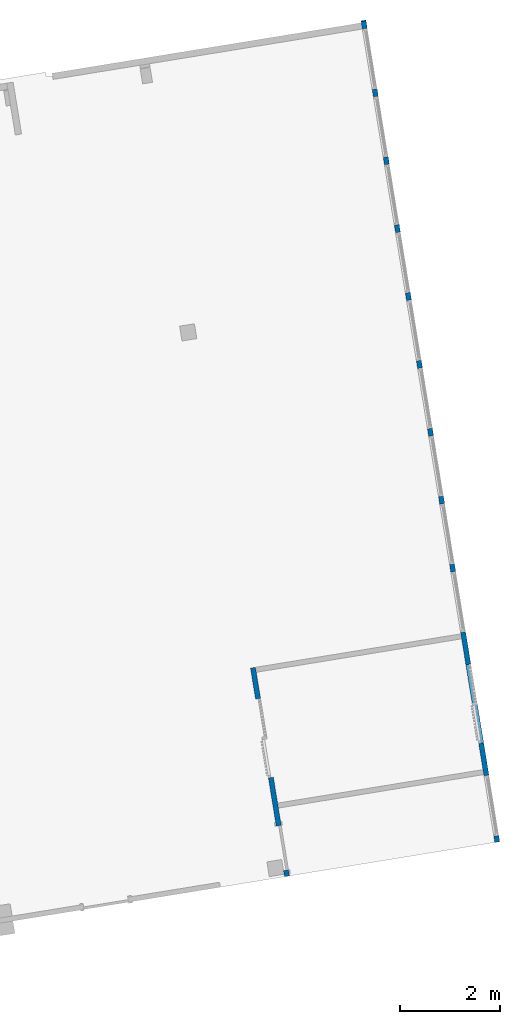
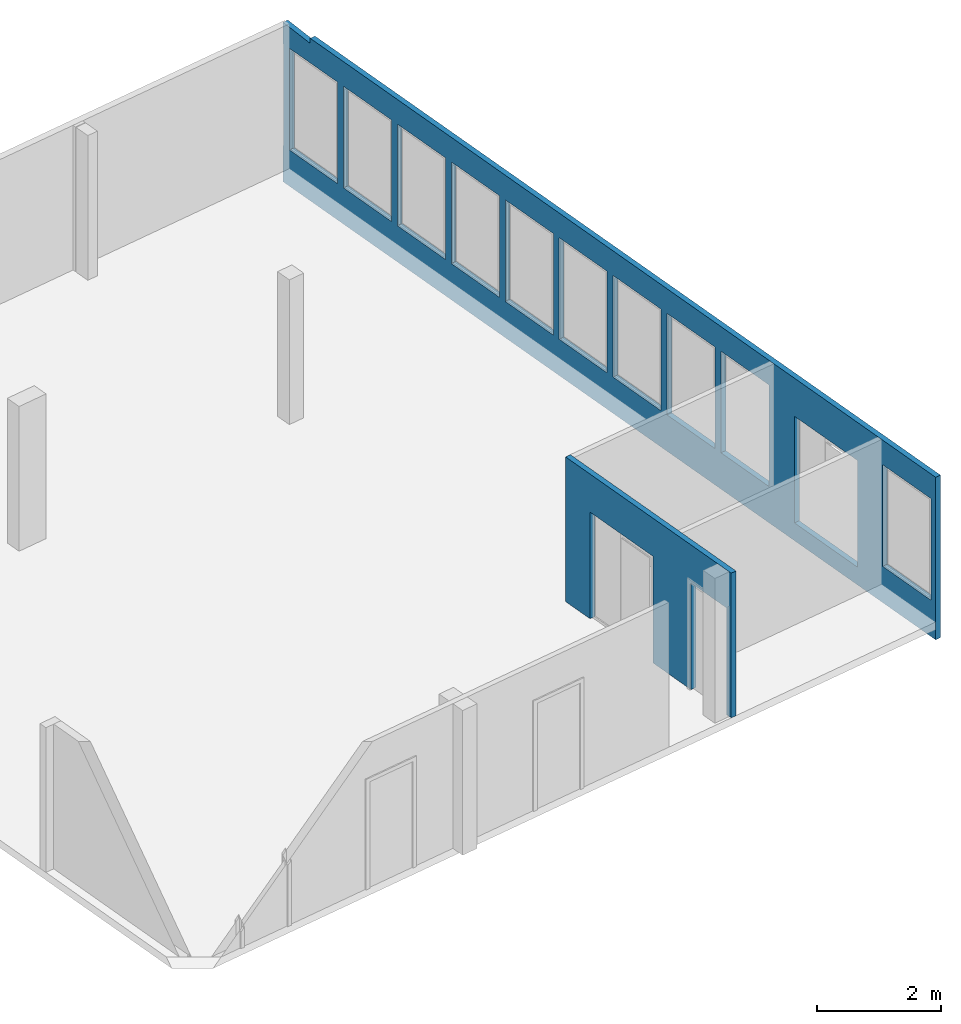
# One storey, part 4 of 5: 2 walls.
"""IFC2X3 building model written with IfcOpenShell, lengths in millimetres."""

from ifc_helpers import new_model, entity, si_unit, converted_unit, derived_unit, direction, frame, origin, origin_with_axes, place, context, subcontext, project, spatial, faceted_brep, material, layer, layer_set, type_object, element, save


model = new_model("IFC2X3")

# Units and contexts
model_context = context("Model", 3, precision=0.01, world=origin(), true_north=direction((6.12323399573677e-17, 1.0)))
plan_context = context("Plan", 3, precision=1e-05, world=origin_with_axes())
body_context = subcontext(model_context, "Body", "Model", "MODEL_VIEW")
ifc_project = project(units=[converted_unit("PLANEANGLEUNIT", "DEGREE", entity("IfcPositiveLengthMeasure", 0.0174532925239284), si_unit("PLANEANGLEUNIT", "RADIAN"), dimensions=[0, 0, 0, 0, 0, 0, 0]), si_unit("AREAUNIT", "SQUARE_METRE"), si_unit("LENGTHUNIT", "METRE", prefix="MILLI"), si_unit("MASSUNIT", "GRAM", prefix="KILO"), si_unit("POWERUNIT", "WATT"), si_unit("PRESSUREUNIT", "PASCAL", prefix="KILO"), si_unit("FORCEUNIT", "NEWTON", prefix="KILO"), si_unit("ELECTRICVOLTAGEUNIT", "VOLT"), si_unit("ELECTRICCURRENTUNIT", "AMPERE"), si_unit("THERMODYNAMICTEMPERATUREUNIT", "DEGREE_CELSIUS"), si_unit("TIMEUNIT", "SECOND"), si_unit("VOLUMEUNIT", "CUBIC_METRE"), derived_unit("LINEARVELOCITYUNIT", [(si_unit("LENGTHUNIT", "METRE"), 1), (si_unit("TIMEUNIT", "SECOND"), -1)]), derived_unit("VOLUMETRICFLOWRATEUNIT", [(si_unit("VOLUMEUNIT", "CUBIC_METRE"), 1), (si_unit("TIMEUNIT", "SECOND"), -1)]), derived_unit("THERMALTRANSMITTANCEUNIT", [(si_unit("POWERUNIT", "WATT"), 1), (si_unit("THERMODYNAMICTEMPERATUREUNIT", "KELVIN"), -1), (si_unit("AREAUNIT", "SQUARE_METRE"), -1)]), derived_unit("SOUNDPRESSUREUNIT", [(si_unit("PRESSUREUNIT", "PASCAL"), 1)])], contexts=[model_context, plan_context])

# Site, building, storey
site_placement = place(None, frame((118326.676922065, 1366174.45681126, 48360.0), z_axis=(0.0, 0.0, 1.0), x_axis=(0.160815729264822, -0.986984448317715, 0.0)))
site = spatial("IfcSite", under=ifc_project, at=site_placement, Name="Default", CompositionType="ELEMENT")
building_placement = place(site_placement, origin_with_axes())
building = spatial("IfcBuilding", under=site, at=building_placement, Name="br002", CompositionType="ELEMENT")
storey_placement = place(building_placement, frame((0.0, 0.0, 3850.0), z_axis=(0.0, 0.0, 1.0), x_axis=(1.0, 0.0, 0.0)))
storey = spatial("IfcBuildingStorey", under=building, at=storey_placement, Name="H01", CompositionType="ELEMENT", Elevation=3849.99999999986)

# Walls
ifc_material_1 = material(Name="Concrete, Cast In Situ")
ifc_layer_1 = layer(ifc_material_1, 100.0)
ifc_layer_set_1 = layer_set([ifc_layer_1], Name="Basic Wall:E 05 Betong 100 mm")
wall_type_1 = type_object("IfcWallType", Name="Basic Wall:E 05 Betong 100 mm", PredefinedType="STANDARD", material=ifc_layer_set_1)
wall_1_placement = place(storey_placement, frame((57999.1710782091, 16687.1763278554, 0.0), z_axis=(0.0, 0.0, 1.0), x_axis=(-1.0, 0.0, 0.0)))
element("IfcWall", 1, at=wall_1_placement, inside=storey, type_object=wall_type_1, Name="Basic Wall:E 05 Betong 100 mm", ObjectType="Basic Wall:E 05 Betong 100 mm", context=body_context, shape_type="Brep", body=[
    faceted_brep([(16500.0, -50.0, 350.0), (16500.0, -50.0, 507.837837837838), (18500.0, -50.0, 350.0), (16500.0, -50.0, 564.705882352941), (16500.0, -50.0, 574.615384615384), (16500.0, -50.0, 2715.75899843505), (16500.0, -50.0, 3200.0), (32450.0, -50.0, 3200.0), (16500.0, -50.0, 2715.0), (16625.0, -50.0, 2715.0), (16500.0, -50.0, 2381.66666666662), (16625.0, -50.0, 715.0), (16500.0, -50.0, 715.0), (16500.0, -50.0, 710.493827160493), (17850.0, -50.0, 715.0), (18500.0, -50.0, 2450.0), (17850.0, -50.0, 2715.0), (20100.0, -50.0, 2450.0), (20750.0, -50.0, 2715.0), (21975.0, -50.0, 2715.0), (22125.0, -50.0, 2715.0), (23350.0, -50.0, 2715.0), (23500.0, -50.0, 2715.0), (24725.0, -50.0, 2715.0), (24875.0, -50.0, 2715.0), (26100.0, -50.0, 2715.0), (26250.0, -50.0, 2715.0), (27475.0, -50.0, 2715.0), (27625.0, -50.0, 2715.0), (28850.0, -50.0, 2715.0), (29000.0, -50.0, 2715.0), (28850.0, -50.0, 715.0), (30225.0, -50.0, 2715.0), (30375.0, -50.0, 2715.0), (30225.0, -50.0, 715.0), (30375.0, -50.0, 715.0), (33142.0, -50.0, 570.939750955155), (33142.0, -50.0, 564.771065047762), (33142.0, -50.0, 159.868951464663), (20100.0, -50.0, 350.0), (29000.0, -50.0, 715.0), (27625.0, -50.0, 715.0), (27475.0, -50.0, 715.0), (26250.0, -50.0, 715.0), (26100.0, -50.0, 715.0), (24875.0, -50.0, 715.0), (24725.0, -50.0, 715.0), (23500.0, -50.0, 715.0), (23350.0, -50.0, 715.0), (22125.0, -50.0, 715.0), (21975.0, -50.0, 715.0), (20750.0, -50.0, 715.0), (33142.0, -50.0, 0.0), (16500.0, -50.0, 0.0), (16500.0, -50.0, 287.313432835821), (16500.0, -50.0, 312.162162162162), (33142.0, -50.0, 626.855265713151), (31600.0, -50.0, 715.0), (33142.0, -50.0, 634.463854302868), (31750.0, -50.0, 715.0), (31750.0, -50.0, 2715.0), (31600.0, -50.0, 2715.0), (32449.999999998, -50.0, 3099.60590620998), (32975.0, -50.0, 2715.0), (33125.0, -50.0, 2715.0), (33142.0, -50.0, 3140.55828133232), (33142.0, -50.0, 2735.66664308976), (33142.0, -50.0, 2723.30462989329), (33142.0, -50.0, 2715.0), (33142.0, -50.0, 715.0), (33142.0, -50.0, 713.893307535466), (33125.0, -50.0, 715.0), (33142.0, -50.0, 704.274850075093), (32975.0, -50.0, 715.0), (33142.0, 50.0, 10.5677721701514), (33142.0, 50.0, 11.171875), (33101.0, 50.0, 0.0), (33142.0, 50.0, 7.33058264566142), (33142.0, 50.0, 7.06555796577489), (33142.0, 50.0, 5.45496836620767), (33142.0, 50.0, 5.30684286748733), (33142.0, 50.0, 0.0), (33142.0, 50.0, 20.9542530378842), (33142.0, 50.0, 23.470776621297), (33142.0, 50.0, 2715.0), (33142.0, 50.0, 2723.30462989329), (33125.0, 50.0, 2715.0), (33142.0, 50.0, 3140.55828133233), (32971.0496470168, 50.0, 3130.44148511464), (32449.9999999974, 50.0, 3099.60590620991), (32975.0, 50.0, 2715.0), (32975.0, 50.0, 715.0), (33125.0, 50.0, 715.0), (32975.0, 50.0, 0.0), (31750.0, 50.0, 715.0), (31600.0, 50.0, 715.0), (31750.0, 50.0, 2715.0), (31600.0, 50.0, 2715.0), (32450.0, 50.0, 3200.0), (30375.0, 50.0, 2715.0), (30225.0, 50.0, 2715.0), (30225.0, 50.0, 715.0), (30375.0, 50.0, 715.0), (29000.0, 50.0, 715.0), (29000.0, 50.0, 2715.0), (28850.0, 50.0, 715.0), (28850.0, 50.0, 2715.0), (27625.0, 50.0, 2715.0), (27475.0, 50.0, 2715.0), (26250.0, 50.0, 2715.0), (20725.0, 50.0, 3200.0), (26100.0, 50.0, 2715.0), (24875.0, 50.0, 2715.0), (24725.0, 50.0, 2715.0), (24725.0, 50.0, 715.0), (24875.0, 50.0, 715.0), (20100.0, 50.0, 350.0), (18500.0, 50.0, 350.0), (16500.0, 50.0, 312.162162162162), (16500.0, 50.0, 0.0), (16500.0, 50.0, 350.0), (16500.0, 50.0, 574.615384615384), (16500.0, 50.0, 564.705882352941), (16500.0, 50.0, 507.837837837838), (16500.0, 50.0, 710.493827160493), (16500.0, 50.0, 715.0), (16625.0, 50.0, 715.0), (16500.0, 50.0, 2381.66666666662), (16500.0, 50.0, 2723.66071428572), (16625.0, 50.0, 2715.0), (17875.0, 50.0, 3200.0), (16500.0, 50.0, 3200.0), (17850.0, 50.0, 2715.0), (17975.0, 50.0, 3200.0), (18500.0, 50.0, 2450.0), (20625.0, 50.0, 3200.0), (20100.0, 50.0, 2450.0), (20750.0, 50.0, 2715.0), (21975.0, 50.0, 2715.0), (22125.0, 50.0, 2715.0), (23350.0, 50.0, 2715.0), (23500.0, 50.0, 2715.0), (23350.0, 50.0, 715.0), (23500.0, 50.0, 715.0), (22125.0, 50.0, 715.0), (21975.0, 50.0, 715.0), (20750.0, 50.0, 715.0), (17850.0, 50.0, 715.0), (26100.0, 50.0, 715.0), (26250.0, 50.0, 715.0), (27475.0, 50.0, 715.0), (27625.0, 50.0, 715.0), (33142.0, 50.0, 715.0)], [[[0, 1, 2]], [[1, 3, 2]], [[3, 4, 2]], [[5, 6, 7]], [[8, 5, 7, 9]], [[10, 8, 9, 11]], [[12, 10, 11]], [[13, 12, 11, 2]], [[11, 14, 2]], [[15, 2, 14]], [[14, 16, 15]], [[17, 15, 16]], [[18, 17, 16]], [[7, 18, 16]], [[7, 19, 18]], [[7, 20, 19]], [[7, 21, 20]], [[7, 22, 21]], [[23, 22, 7]], [[23, 7, 24]], [[7, 25, 24]], [[7, 26, 25]], [[7, 27, 26]], [[27, 7, 28]], [[7, 29, 28]], [[7, 30, 31, 29]], [[7, 32, 30]], [[7, 33, 32]], [[32, 33, 34]], [[34, 33, 35]], [[36, 37, 34, 35]], [[37, 38, 39, 34]], [[34, 39, 40]], [[40, 39, 31]], [[31, 39, 41]], [[41, 39, 42]], [[42, 39, 43]], [[44, 43, 39]], [[44, 26, 43]], [[44, 39, 45]], [[46, 45, 39]], [[46, 24, 45]], [[47, 46, 39]], [[47, 39, 48]], [[39, 49, 48]], [[50, 49, 39]], [[20, 49, 50]], [[50, 39, 51]], [[51, 39, 17]], [[22, 47, 48]], [[42, 28, 41]], [[38, 52, 53, 54, 39]], [[54, 55, 2, 39]], [[56, 36, 35, 57]], [[58, 56, 57, 59]], [[57, 60, 59]], [[57, 61, 60]], [[7, 60, 61]], [[60, 7, 62]], [[62, 63, 60]], [[64, 63, 62]], [[65, 66, 64, 62]], [[66, 67, 64]], [[67, 68, 64]], [[69, 70, 71]], [[70, 72, 73, 71]], [[71, 73, 64]], [[63, 64, 73]], [[72, 58, 59, 73]], [[7, 61, 33]], [[31, 30, 40]], [[28, 42, 27]], [[25, 26, 44]], [[23, 24, 46]], [[22, 48, 21]], [[19, 20, 50]], [[51, 17, 18]], [[7, 16, 9]], [[4, 13, 2]], [[55, 0, 2]], [[74, 75, 76]], [[77, 74, 76]], [[78, 77, 76]], [[79, 78, 76]], [[80, 79, 76]], [[81, 80, 76]], [[75, 82, 76]], [[82, 83, 76]], [[84, 85, 86]], [[85, 87, 88, 86]], [[88, 89, 86]], [[90, 86, 89]], [[90, 91, 86]], [[86, 91, 92]], [[92, 91, 76]], [[76, 91, 93]], [[94, 93, 91]], [[93, 94, 95]], [[96, 95, 94]], [[97, 95, 96]], [[98, 97, 96]], [[98, 99, 97]], [[98, 100, 99]], [[101, 99, 100]], [[93, 102, 99, 101]], [[103, 93, 101]], [[93, 103, 104, 105]], [[105, 104, 106]], [[98, 106, 104]], [[98, 107, 106]], [[98, 108, 107]], [[98, 109, 108]], [[98, 110, 109]], [[111, 109, 110]], [[112, 111, 110]], [[113, 112, 110]], [[113, 114, 112]], [[114, 115, 112]], [[115, 114, 116]], [[115, 116, 93]], [[117, 93, 116]], [[118, 119, 93, 117]], [[120, 118, 117]], [[121, 122, 117]], [[122, 123, 117]], [[124, 121, 117]], [[125, 124, 117, 126]], [[127, 125, 126]], [[128, 127, 126, 129, 130]], [[131, 128, 130]], [[130, 129, 132]], [[132, 133, 130]], [[133, 132, 134]], [[135, 133, 134]], [[136, 135, 134]], [[136, 137, 135]], [[135, 137, 110]], [[137, 138, 110]], [[138, 139, 110]], [[140, 110, 139]], [[110, 140, 141]], [[140, 142, 141]], [[141, 142, 143]], [[143, 142, 116]], [[142, 144, 116]], [[145, 116, 144]], [[145, 146, 116]], [[139, 145, 144]], [[145, 139, 138]], [[116, 146, 137, 136]], [[132, 147, 134]], [[147, 117, 134]], [[126, 117, 147]], [[123, 120, 117]], [[93, 148, 115]], [[148, 93, 149]], [[148, 149, 109]], [[93, 150, 149]], [[151, 150, 93]], [[107, 150, 151]], [[116, 114, 143]], [[141, 113, 110]], [[148, 109, 111]], [[150, 107, 108]], [[93, 105, 151]], [[100, 98, 104]], [[96, 89, 98]], [[95, 102, 93]], [[96, 90, 89]], [[83, 152, 92, 76]], [[119, 53, 52, 81]], [[134, 15, 17, 136]], [[39, 2, 117, 116]], [[90, 63, 73, 91]], [[60, 63, 90, 96]], [[68, 84, 86, 64]], [[104, 30, 32, 100]], [[107, 28, 29, 106]], [[109, 26, 27, 108]], [[111, 112, 24, 25]], [[141, 22, 23, 113]], [[21, 140, 139, 20]], [[137, 18, 19, 138]], [[9, 16, 132, 129]], [[33, 61, 97, 99]], [[59, 60, 96, 94]], [[73, 59, 94, 91]], [[152, 69, 71, 92]], [[101, 34, 40, 103]], [[105, 31, 41, 151]], [[150, 42, 43, 149]], [[45, 115, 148, 44]], [[114, 46, 47, 143]], [[49, 144, 142, 48]], [[145, 50, 51, 146]], [[147, 14, 11, 126]], [[57, 35, 102, 95]], [[6, 131, 98, 7]], [[62, 7, 98, 89]], [[87, 65, 62, 89]], [[86, 92, 71, 64]], [[32, 34, 101, 100]], [[40, 30, 104, 103]], [[29, 31, 105, 106]], [[151, 41, 28, 107]], [[27, 42, 150, 108]], [[149, 43, 26, 109]], [[112, 115, 45, 24]], [[148, 111, 25, 44]], [[113, 23, 46, 114]], [[47, 22, 141, 143]], [[139, 144, 49, 20]], [[142, 140, 21, 48]], [[138, 19, 50, 145]], [[51, 18, 137, 146]], [[132, 16, 14, 147]], [[11, 9, 129, 126]], [[97, 61, 57, 95]], [[35, 33, 99, 102]], [[2, 15, 134, 117]], [[136, 17, 39, 116]], [[55, 54, 53, 119, 118, 120, 123, 122, 121, 124, 125, 127, 128, 131, 6, 5, 8, 10, 12, 13, 4, 3, 1, 0]], [[56, 58, 72, 70, 69, 152, 83, 82, 75, 74, 77, 78, 79, 80, 81, 52, 38, 37, 36]], [[87, 85, 84, 68, 67, 66, 65]]], orient=[[False], [False], [False], [False], [False], [False], [False], [False], [False], [False], [False], [False], [False], [False], [False], [False], [False], [False], [False], [False], [False], [False], [False], [False], [False], [False], [False], [False], [False], [False], [False], [False], [False], [False], [False], [False], [False], [False], [False], [False], [False], [False], [False], [False], [False], [False], [False], [False], [False], [False], [False], [False], [False], [False], [False], [False], [False], [False], [False], [False], [False], [False], [False], [False], [False], [False], [False], [False], [False], [False], [False], [False], [False], [False], [False], [False], [False], [False], [False], [False], [False], [False], [False], [False], [False], [False], [False], [False], [False], [False], [False], [False], [False], [False], [False], [False], [False], [False], [False], [False], [False], [False], [False], [False], [False], [False], [False], [False], [False], [False], [False], [False], [False], [False], [False], [False], [False], [False], [False], [False], [False], [False], [False], [False], [False], [False], [False], [False], [False], [False], [False], [False], [False], [False], [False], [False], [False], [False], [False], [False], [False], [False], [False], [False], [False], [False], [False], [False], [False], [False], [False], [False], [False], [False], [False], [False], [False], [False], [False], [False], [False], [False], [False], [False], [False], [False], [False], [False], [False], [False], [False], [False], [False], [False], [False], [False], [False], [False], [False], [False], [False], [False], [False], [False], [False], [False], [False], [False], [False], [False], [False], [False], [False], [False], [False], [False], [False], [False], [False], [False], [False], [False], [False], [False], [False], [False], [False], [False], [False], [False], [False], [False], [False], [False], [False], [False], [False], [False], [False], [False], [False], [False], [False], [False]]),
])
ifc_material_2 = material(Name="Gypsum Wall Board")
ifc_layer_2 = layer(ifc_material_2, 13.0)
ifc_material_3 = material(Name="Structure, Timber Joist/Rafter Layer")
ifc_layer_3 = layer(ifc_material_3, 74.0)
ifc_layer_4 = layer(ifc_material_2, 13.0)
ifc_layer_set_2 = layer_set([ifc_layer_2, ifc_layer_3, ifc_layer_4], Name="Basic Wall:E 01 100 mm Innervegg")
wall_type_2 = type_object("IfcWallType", Name="Basic Wall:E 01 100 mm Innervegg", PredefinedType="STANDARD", material=ifc_layer_set_2)
wall_2_placement = place(storey_placement, frame((50999.1710782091, 12427.1763278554, 350.0), z_axis=(0.0, 0.0, 1.0), x_axis=(-1.0, 0.0, 0.0)))
element("IfcWall", 2, at=wall_2_placement, inside=storey, type_object=wall_type_2, Name="Basic Wall:E 01 100 mm Innervegg", ObjectType="Basic Wall:E 01 100 mm Innervegg", context=body_context, shape_type="Brep", body=[
    faceted_brep([(9500.0, -50.0000000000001, 0.0), (9500.0, -50.000000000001, 2849.9999999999), (13725.0, -50.000000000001, 2849.9999999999), (13725.0, -50.000000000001, 0.0), (13100.0, -50.0, 2.27373675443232e-13), (13100.0, -50.0, 2100.0), (11500.0, -50.0, 2100.0), (11500.0, -50.0, 2.27373675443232e-13), (10525.0, -50.0, 0.0), (10525.0, -50.0, 2100.0), (9625.0, -50.0, 2100.0), (9625.0, -50.0, 0.0), (13725.0, 50.0000000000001, 2849.9999999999), (13725.0, 50.0000000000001, 0.0), (9500.0, 50.0000000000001, 2849.9999999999), (9500.0, 50.0, 0.0), (9625.0, 50.0, 0.0), (9625.0, 50.0, 2100.0), (10525.0, 50.0, 2100.0), (10525.0, 50.0, 0.0), (11500.0, 50.0, 2.27373675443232e-13), (11500.0, 50.0, 2100.0), (13100.0, 50.0, 2100.0), (13100.0, 50.0, 2.27373675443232e-13)], [[[0, 1, 2, 3, 4, 5, 6, 7, 8, 9, 10, 11]], [[3, 2, 12, 13]], [[14, 15, 16, 17, 18, 19, 20, 21, 22, 23, 13, 12]], [[19, 8, 7, 20]], [[15, 0, 11, 16]], [[23, 4, 3, 13]], [[1, 14, 12, 2]], [[16, 11, 10, 17]], [[18, 9, 8, 19]], [[17, 10, 9, 18]], [[5, 22, 21, 6]], [[4, 23, 22, 5]], [[6, 21, 20, 7]], [[15, 14, 1, 0]]], orient=[[False], [False], [False], [False], [False], [False], [False], [False], [False], [False], [False], [False], [False], [False]]),
])

save(model, "model.ifc")
